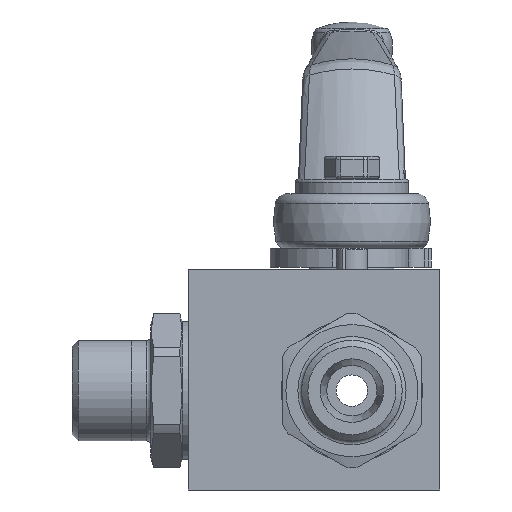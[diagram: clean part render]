
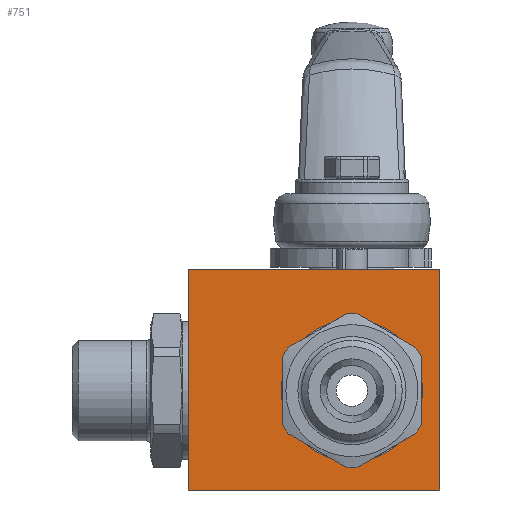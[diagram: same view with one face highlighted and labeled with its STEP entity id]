
A CAD part, front view. The second image highlights one B-rep face of the part: STEP entity #751.
In plain terms, the highlighted planar face has unit normal (0, -1, 0).
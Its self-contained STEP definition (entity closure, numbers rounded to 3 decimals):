
#751 = ADVANCED_FACE( '', ( #1583, #1584 ), #1585, .T. );
#1583 = FACE_OUTER_BOUND( '', #3047, .T. );
#1584 = FACE_BOUND( '', #3048, .T. );
#1585 = PLANE( '', #3049 );
#3047 = EDGE_LOOP( '', ( #5446, #5447, #5448, #5449 ) );
#3048 = EDGE_LOOP( '', ( #5450 ) );
#3049 = AXIS2_PLACEMENT_3D( '', #5451, #5452, #5453 );
#5446 = ORIENTED_EDGE( '', *, *, #7659, .T. );
#5447 = ORIENTED_EDGE( '', *, *, #7635, .T. );
#5448 = ORIENTED_EDGE( '', *, *, #7665, .T. );
#5449 = ORIENTED_EDGE( '', *, *, #7667, .T. );
#5450 = ORIENTED_EDGE( '', *, *, #7149, .T. );
#5451 = CARTESIAN_POINT( '', ( -26., -17.5, -15.8 ) );
#5452 = DIRECTION( '', ( 0., -1., 0. ) );
#5453 = DIRECTION( '', ( 0., 0., -1. ) );
#7149 = EDGE_CURVE( '', #8624, #8624, #8625, .T. );
#7635 = EDGE_CURVE( '', #9415, #9413, #9416, .T. );
#7659 = EDGE_CURVE( '', #9450, #9415, #9451, .T. );
#7665 = EDGE_CURVE( '', #9413, #9458, #9460, .T. );
#7667 = EDGE_CURVE( '', #9458, #9450, #9462, .T. );
#8624 = VERTEX_POINT( '', #10246 );
#8625 = CIRCLE( '', #10247, 11.25 );
#9413 = VERTEX_POINT( '', #12135 );
#9415 = VERTEX_POINT( '', #12138 );
#9416 = LINE( '', #12139, #12140 );
#9450 = VERTEX_POINT( '', #12190 );
#9451 = LINE( '', #12191, #12192 );
#9458 = VERTEX_POINT( '', #12201 );
#9460 = LINE( '', #12204, #12205 );
#9462 = LINE( '', #12207, #12208 );
#10246 = CARTESIAN_POINT( '', ( 11.25, -17.5, 0. ) );
#10247 = AXIS2_PLACEMENT_3D( '', #13490, #13491, #13492 );
#12135 = CARTESIAN_POINT( '', ( 14., -17.5, -15.8 ) );
#12138 = CARTESIAN_POINT( '', ( -26., -17.5, -15.8 ) );
#12139 = CARTESIAN_POINT( '', ( -26., -17.5, -15.8 ) );
#12140 = VECTOR( '', #14124, 1000. );
#12190 = CARTESIAN_POINT( '', ( -26., -17.5, 19.2 ) );
#12191 = CARTESIAN_POINT( '', ( -26., -17.5, 19.2 ) );
#12192 = VECTOR( '', #14164, 1000. );
#12201 = CARTESIAN_POINT( '', ( 14., -17.5, 19.2 ) );
#12204 = CARTESIAN_POINT( '', ( 14., -17.5, -15.8 ) );
#12205 = VECTOR( '', #14171, 1000. );
#12207 = CARTESIAN_POINT( '', ( 14., -17.5, 19.2 ) );
#12208 = VECTOR( '', #14172, 1000. );
#13490 = CARTESIAN_POINT( '', ( 0., -17.5, 0. ) );
#13491 = DIRECTION( '', ( 0., 1., 0. ) );
#13492 = DIRECTION( '', ( 1., 0., 0. ) );
#14124 = DIRECTION( '', ( 1., 0., 0. ) );
#14164 = DIRECTION( '', ( 0., 0., -1. ) );
#14171 = DIRECTION( '', ( 0., 0., 1. ) );
#14172 = DIRECTION( '', ( -1., 0., 0. ) );
